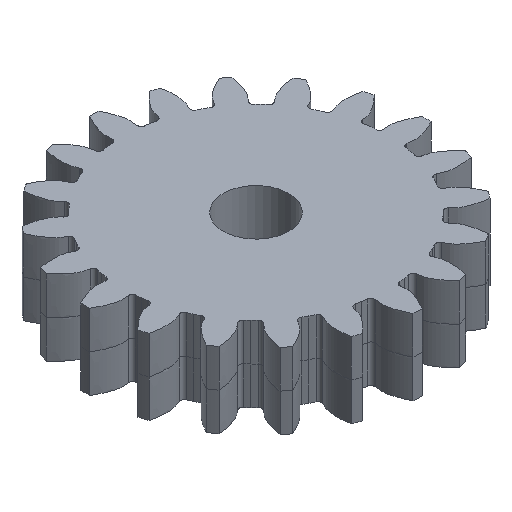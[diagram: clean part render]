
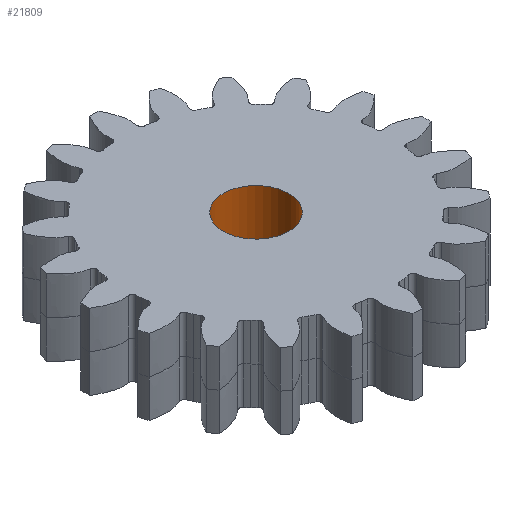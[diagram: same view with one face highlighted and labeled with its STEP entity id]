
A CAD part, isometric view. The second image highlights one B-rep face of the part: STEP entity #21809.
In plain terms, the highlighted cylindrical face has radius 2.6 mm (diameter 5.2 mm), a full revolution.
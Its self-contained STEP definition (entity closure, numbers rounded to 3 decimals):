
#91 = PLANE('',#92);
#92 = AXIS2_PLACEMENT_3D('',#93,#94,#95);
#93 = CARTESIAN_POINT('',(0.,0.,-3.));
#94 = DIRECTION('',(0.,0.,1.));
#95 = DIRECTION('',(1.,0.,-0.));
#393 = PLANE('',#394);
#394 = AXIS2_PLACEMENT_3D('',#395,#396,#397);
#395 = CARTESIAN_POINT('',(0.,0.,3.));
#396 = DIRECTION('',(0.,0.,1.));
#397 = DIRECTION('',(1.,0.,-0.));
#7170 = EDGE_CURVE('',#7171,#7171,#7173,.T.);
#7171 = VERTEX_POINT('',#7172);
#7172 = CARTESIAN_POINT('',(2.6,0.,-3.));
#7173 = SURFACE_CURVE('',#7174,(#7179,#7186),.PCURVE_S1.);
#7174 = CIRCLE('',#7175,2.6);
#7175 = AXIS2_PLACEMENT_3D('',#7176,#7177,#7178);
#7176 = CARTESIAN_POINT('',(0.,0.,-3.));
#7177 = DIRECTION('',(0.,0.,1.));
#7178 = DIRECTION('',(1.,0.,-0.));
#7179 = PCURVE('',#91,#7180);
#7180 = DEFINITIONAL_REPRESENTATION('',(#7181),#7185);
#7181 = CIRCLE('',#7182,2.6);
#7182 = AXIS2_PLACEMENT_2D('',#7183,#7184);
#7183 = CARTESIAN_POINT('',(0.,0.));
#7184 = DIRECTION('',(1.,0.));
#7185 = ( GEOMETRIC_REPRESENTATION_CONTEXT(2) 
PARAMETRIC_REPRESENTATION_CONTEXT() REPRESENTATION_CONTEXT('2D SPACE',''
  ) );
#7186 = PCURVE('',#7187,#7192);
#7187 = CYLINDRICAL_SURFACE('',#7188,2.6);
#7188 = AXIS2_PLACEMENT_3D('',#7189,#7190,#7191);
#7189 = CARTESIAN_POINT('',(0.,0.,-4.));
#7190 = DIRECTION('',(0.,0.,1.));
#7191 = DIRECTION('',(1.,0.,-0.));
#7192 = DEFINITIONAL_REPRESENTATION('',(#7193),#7197);
#7193 = LINE('',#7194,#7195);
#7194 = CARTESIAN_POINT('',(0.,1.));
#7195 = VECTOR('',#7196,1.);
#7196 = DIRECTION('',(1.,0.));
#7197 = ( GEOMETRIC_REPRESENTATION_CONTEXT(2) 
PARAMETRIC_REPRESENTATION_CONTEXT() REPRESENTATION_CONTEXT('2D SPACE',''
  ) );
#14200 = EDGE_CURVE('',#14201,#14201,#14203,.T.);
#14201 = VERTEX_POINT('',#14202);
#14202 = CARTESIAN_POINT('',(2.6,0.,3.));
#14203 = SURFACE_CURVE('',#14204,(#14209,#14216),.PCURVE_S1.);
#14204 = CIRCLE('',#14205,2.6);
#14205 = AXIS2_PLACEMENT_3D('',#14206,#14207,#14208);
#14206 = CARTESIAN_POINT('',(0.,0.,3.));
#14207 = DIRECTION('',(0.,0.,1.));
#14208 = DIRECTION('',(1.,0.,-0.));
#14209 = PCURVE('',#393,#14210);
#14210 = DEFINITIONAL_REPRESENTATION('',(#14211),#14215);
#14211 = CIRCLE('',#14212,2.6);
#14212 = AXIS2_PLACEMENT_2D('',#14213,#14214);
#14213 = CARTESIAN_POINT('',(0.,0.));
#14214 = DIRECTION('',(1.,0.));
#14215 = ( GEOMETRIC_REPRESENTATION_CONTEXT(2) 
PARAMETRIC_REPRESENTATION_CONTEXT() REPRESENTATION_CONTEXT('2D SPACE',''
  ) );
#14216 = PCURVE('',#7187,#14217);
#14217 = DEFINITIONAL_REPRESENTATION('',(#14218),#14222);
#14218 = LINE('',#14219,#14220);
#14219 = CARTESIAN_POINT('',(0.,7.));
#14220 = VECTOR('',#14221,1.);
#14221 = DIRECTION('',(1.,0.));
#14222 = ( GEOMETRIC_REPRESENTATION_CONTEXT(2) 
PARAMETRIC_REPRESENTATION_CONTEXT() REPRESENTATION_CONTEXT('2D SPACE',''
  ) );
#21809 = ADVANCED_FACE('',(#21810),#7187,.F.);
#21810 = FACE_BOUND('',#21811,.F.);
#21811 = EDGE_LOOP('',(#21812,#21813,#21834,#21835));
#21812 = ORIENTED_EDGE('',*,*,#14200,.F.);
#21813 = ORIENTED_EDGE('',*,*,#21814,.F.);
#21814 = EDGE_CURVE('',#7171,#14201,#21815,.T.);
#21815 = SEAM_CURVE('',#21816,(#21820,#21827),.PCURVE_S1.);
#21816 = LINE('',#21817,#21818);
#21817 = CARTESIAN_POINT('',(2.6,0.,-4.));
#21818 = VECTOR('',#21819,1.);
#21819 = DIRECTION('',(0.,0.,1.));
#21820 = PCURVE('',#7187,#21821);
#21821 = DEFINITIONAL_REPRESENTATION('',(#21822),#21826);
#21822 = LINE('',#21823,#21824);
#21823 = CARTESIAN_POINT('',(0.,0.));
#21824 = VECTOR('',#21825,1.);
#21825 = DIRECTION('',(0.,1.));
#21826 = ( GEOMETRIC_REPRESENTATION_CONTEXT(2) 
PARAMETRIC_REPRESENTATION_CONTEXT() REPRESENTATION_CONTEXT('2D SPACE',''
  ) );
#21827 = PCURVE('',#7187,#21828);
#21828 = DEFINITIONAL_REPRESENTATION('',(#21829),#21833);
#21829 = LINE('',#21830,#21831);
#21830 = CARTESIAN_POINT('',(6.283,0.));
#21831 = VECTOR('',#21832,1.);
#21832 = DIRECTION('',(0.,1.));
#21833 = ( GEOMETRIC_REPRESENTATION_CONTEXT(2) 
PARAMETRIC_REPRESENTATION_CONTEXT() REPRESENTATION_CONTEXT('2D SPACE',''
  ) );
#21834 = ORIENTED_EDGE('',*,*,#7170,.T.);
#21835 = ORIENTED_EDGE('',*,*,#21814,.T.);
